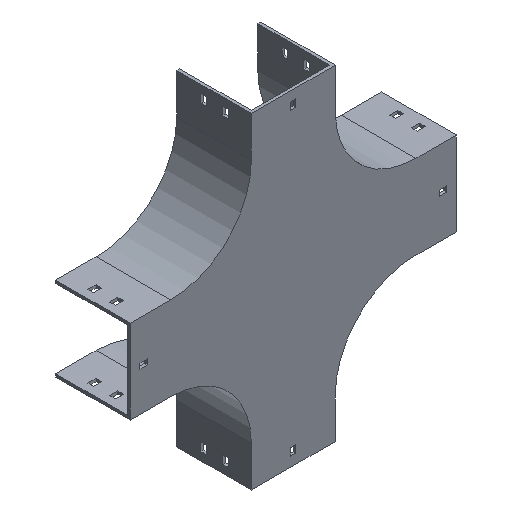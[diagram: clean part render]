
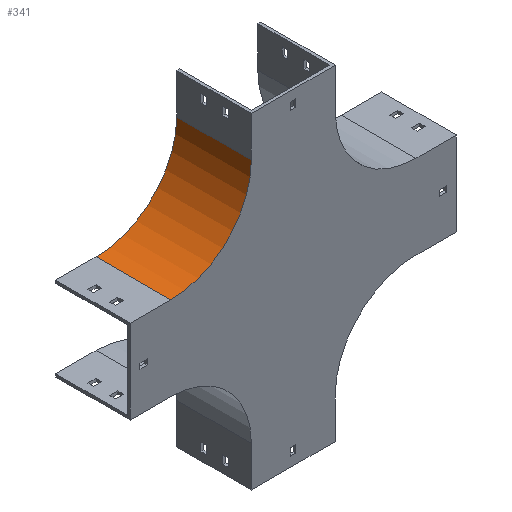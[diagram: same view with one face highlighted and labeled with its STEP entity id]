
A CAD part, isometric view. The second image highlights one B-rep face of the part: STEP entity #341.
In plain terms, the highlighted cylindrical face has radius 100 mm (diameter 200 mm), a partial arc.
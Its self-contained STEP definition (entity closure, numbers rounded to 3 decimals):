
#36 = AXIS2_PLACEMENT_3D ( 'NONE', #3589, #1277, #1004 ) ;
#172 = VERTEX_POINT ( 'NONE', #787 ) ;
#206 = CARTESIAN_POINT ( 'NONE',  ( -204., 92.5, 0. ) ) ;
#225 = VECTOR ( 'NONE', #535, 1000. ) ;
#270 = ORIENTED_EDGE ( 'NONE', *, *, #3544, .F. ) ;
#341 = ADVANCED_FACE ( 'NONE', ( #3260 ), #944, .F. ) ;
#535 = DIRECTION ( 'NONE',  ( 0., -1., 0. ) ) ;
#573 = EDGE_CURVE ( 'NONE', #947, #172, #3247, .T. ) ;
#787 = CARTESIAN_POINT ( 'NONE',  ( -204., 92.5, 0. ) ) ;
#909 = CARTESIAN_POINT ( 'NONE',  ( -304., 92.5, -100. ) ) ;
#944 = CYLINDRICAL_SURFACE ( 'NONE', #36, 100. ) ;
#947 = VERTEX_POINT ( 'NONE', #909 ) ;
#1004 = DIRECTION ( 'NONE',  ( 0., 0., -1. ) ) ;
#1277 = DIRECTION ( 'NONE',  ( 0., -1., 0. ) ) ;
#1335 = EDGE_LOOP ( 'NONE', ( #1620, #270, #3372, #3757 ) ) ;
#1393 = DIRECTION ( 'NONE',  ( 0., -1., 0. ) ) ;
#1406 = LINE ( 'NONE', #206, #3833 ) ;
#1529 = EDGE_CURVE ( 'NONE', #2265, #2648, #1978, .T. ) ;
#1620 = ORIENTED_EDGE ( 'NONE', *, *, #1529, .T. ) ;
#1717 = DIRECTION ( 'NONE',  ( 0., -1., 0. ) ) ;
#1859 = CARTESIAN_POINT ( 'NONE',  ( -204., 0., 0. ) ) ;
#1909 = AXIS2_PLACEMENT_3D ( 'NONE', #2918, #3488, #2902 ) ;
#1978 = CIRCLE ( 'NONE', #1909, 100. ) ;
#2059 = LINE ( 'NONE', #2306, #225 ) ;
#2265 = VERTEX_POINT ( 'NONE', #2280 ) ;
#2280 = CARTESIAN_POINT ( 'NONE',  ( -304., 0., -100. ) ) ;
#2295 = EDGE_CURVE ( 'NONE', #947, #2265, #2059, .T. ) ;
#2306 = CARTESIAN_POINT ( 'NONE',  ( -304., 92.5, -100. ) ) ;
#2639 = CARTESIAN_POINT ( 'NONE',  ( -304., 92.5, 0. ) ) ;
#2648 = VERTEX_POINT ( 'NONE', #1859 ) ;
#2873 = DIRECTION ( 'NONE',  ( 0., 0., 1. ) ) ;
#2902 = DIRECTION ( 'NONE',  ( 0., 0., 1. ) ) ;
#2918 = CARTESIAN_POINT ( 'NONE',  ( -304., 0., 0. ) ) ;
#3247 = CIRCLE ( 'NONE', #3422, 100. ) ;
#3260 = FACE_OUTER_BOUND ( 'NONE', #1335, .T. ) ;
#3372 = ORIENTED_EDGE ( 'NONE', *, *, #573, .F. ) ;
#3422 = AXIS2_PLACEMENT_3D ( 'NONE', #2639, #1717, #2873 ) ;
#3488 = DIRECTION ( 'NONE',  ( 0., -1., 0. ) ) ;
#3544 = EDGE_CURVE ( 'NONE', #172, #2648, #1406, .T. ) ;
#3589 = CARTESIAN_POINT ( 'NONE',  ( -304., 92.5, 0. ) ) ;
#3757 = ORIENTED_EDGE ( 'NONE', *, *, #2295, .T. ) ;
#3833 = VECTOR ( 'NONE', #1393, 1000. ) ;
